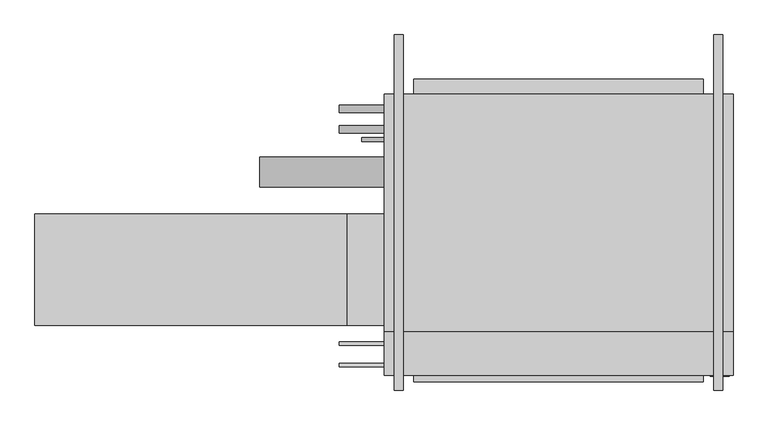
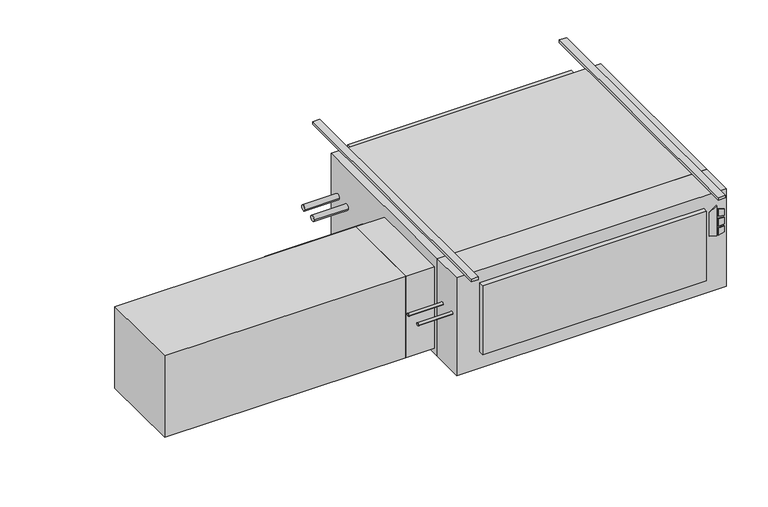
"""IFC4 building model written with IfcOpenShell, lengths in millimetres: proxy geometry."""

from ifc_helpers import new_model, si_unit, point, frame, frame_2d, origin, origin_with_axes, place, context, project, spatial, polyline, circle_curve, trimmed, segment, composite_curve, outline, extrude, source, transform, mapped, element, save


def mechanical_equipment_f79a586b(model_context):
    return source(origin(), model_context, "Body", "SweptSolid", [
        extrude(outline(polyline([(-193.2519297, 671.5868862), (-203.2, 703.7602728), (-61.0290756, 703.7602728), (-84.0510817, 671.5868862), (-193.2519297, 671.5868862)])), frame((0.0, -797.052, 0.0), z_axis=(0.0, 1.0, 0.0), x_axis=(0.0, 0.0, 1.0)), (0.0, 0.0, 1.0), 3.175),
        extrude(outline(polyline([(-114.2526443, 710.5186058), (-117.4550368, 736.6), (-88.2261958, 736.6), (-80.1617807, 710.5186058), (-114.2526443, 710.5186058)])), frame((0.0, -797.052, 0.0), z_axis=(0.0, 1.0, 0.0), x_axis=(0.0, 0.0, 1.0)), (0.0, 0.0, 1.0), 3.175),
        extrude(outline(polyline([(-166.1161712, 736.6), (-169.7816721, 710.5186058), (-203.2, 710.5186058), (-194.5657628, 736.6), (-166.1161712, 736.6)])), frame((0.0, -797.052, 0.0), z_axis=(0.0, 1.0, 0.0), x_axis=(0.0, 0.0, 1.0)), (0.0, 0.0, 1.0), 3.175),
        extrude(outline(polyline([(-126.8010097, 736.6), (-124.5191834, 710.5186058), (-160.4567319, 710.5186058), (-157.7154669, 736.6), (-126.8010097, 736.6)])), frame((0.0, -797.052, 0.0), z_axis=(0.0, 1.0, 0.0), x_axis=(0.0, 0.0, 1.0)), (0.0, 0.0, 1.0), 3.175),
        extrude(outline(polyline([(749.3, -793.877), (-444.5, -793.877), (-444.5, -644.525), (749.3, -644.525), (749.3, -793.877)])), frame((0.0, 0.0, -457.2), z_axis=(0.0, 0.0, 1.0), x_axis=(1.0, 0.0, 0.0)), (0.0, 0.0, 1.0), 457.2),
        extrude(outline(polyline([(647.7, -816.229), (-342.9, -816.229), (-342.9, -793.877), (647.7, -793.877), (647.7, -816.229)])), frame((0.0, 0.0, -381.0), z_axis=(0.0, 0.0, 1.0), x_axis=(1.0, 0.0, 0.0)), (0.0, 0.0, 1.0), 323.85),
        extrude(outline(polyline([(-1638.3, -622.3), (-1638.3, -241.3), (-571.5, -241.3), (-571.5, -622.3), (-1638.3, -622.3)])), frame((0.0, 0.0, -431.8), z_axis=(0.0, 0.0, 1.0), x_axis=(1.0, 0.0, 0.0)), (0.0, 0.0, 1.0), 381.0),
        extrude(outline(polyline([(-444.5, -241.3), (-444.5, -622.3), (-571.5, -622.3), (-571.5, -241.3), (-444.5, -241.3)])), frame((0.0, 0.0, -431.8), z_axis=(0.0, 0.0, 1.0), x_axis=(1.0, 0.0, 0.0)), (0.0, 0.0, 1.0), 381.0),
        extrude(outline(composite_curve([segment(trimmed(circle_curve(frame_2d((-758.825, -184.15)), 6.35), [point((-765.175, -184.15))], [point((-752.475, -184.15))], False, "CARTESIAN"), True, "CONTINUOUS"), segment(trimmed(circle_curve(frame_2d((-758.825, -184.15)), 6.35), [point((-752.475, -184.15))], [point((-765.175, -184.15))], False, "CARTESIAN"), True, "CONTINUOUS")], self_intersect=False)), frame((-596.9, 0.0, 0.0), z_axis=(1.0, 0.0, 0.0), x_axis=(0.0, 1.0, 0.0)), (0.0, 0.0, 1.0), 152.4),
        extrude(outline(composite_curve([segment(trimmed(circle_curve(frame_2d((-685.8, -184.15)), 6.35), [point((-692.15, -184.15))], [point((-679.45, -184.15))], False, "CARTESIAN"), True, "CONTINUOUS"), segment(trimmed(circle_curve(frame_2d((-685.8, -184.15)), 6.35), [point((-679.45, -184.15))], [point((-692.15, -184.15))], False, "CARTESIAN"), True, "CONTINUOUS")], self_intersect=False)), frame((-596.9, 0.0, 0.0), z_axis=(1.0, 0.0, 0.0), x_axis=(0.0, 1.0, 0.0)), (0.0, 0.0, 1.0), 152.4),
        extrude(outline(composite_curve([segment(trimmed(circle_curve(frame_2d((-98.4896516, -228.6360165)), 50.8), [point((-149.2896516, -228.6360165))], [point((-47.6896516, -228.6360165))], False, "CARTESIAN"), True, "CONTINUOUS"), segment(trimmed(circle_curve(frame_2d((-98.4896516, -228.6360165)), 50.8), [point((-47.6896516, -228.6360165))], [point((-149.2896516, -228.6360165))], False, "CARTESIAN"), True, "CONTINUOUS")], self_intersect=False)), frame((-869.95, 0.0, 0.0), z_axis=(1.0, 0.0, 0.0), x_axis=(0.0, 1.0, 0.0)), (0.0, 0.0, 1.0), 425.45),
        extrude(outline(composite_curve([segment(trimmed(circle_curve(frame_2d((47.625, -177.8)), 12.7), [point((34.925, -177.8))], [point((60.325, -177.8))], False, "CARTESIAN"), True, "CONTINUOUS"), segment(trimmed(circle_curve(frame_2d((47.625, -177.8)), 12.7), [point((60.325, -177.8))], [point((34.925, -177.8))], False, "CARTESIAN"), True, "CONTINUOUS")], self_intersect=False)), frame((-596.9, 0.0, 0.0), z_axis=(1.0, 0.0, 0.0), x_axis=(0.0, 1.0, 0.0)), (0.0, 0.0, 1.0), 152.4),
        extrude(outline(composite_curve([segment(trimmed(circle_curve(frame_2d((117.475, -171.45)), 12.7), [point((104.775, -171.45))], [point((130.175, -171.45))], False, "CARTESIAN"), True, "CONTINUOUS"), segment(trimmed(circle_curve(frame_2d((117.475, -171.45)), 12.7), [point((130.175, -171.45))], [point((104.775, -171.45))], False, "CARTESIAN"), True, "CONTINUOUS")], self_intersect=False)), frame((-596.9, 0.0, 0.0), z_axis=(1.0, 0.0, 0.0), x_axis=(0.0, 1.0, 0.0)), (0.0, 0.0, 1.0), 152.4),
        extrude(outline(composite_curve([segment(trimmed(circle_curve(frame_2d((12.7, -409.575)), 6.35), [point((6.35, -409.575))], [point((19.05, -409.575))], False, "CARTESIAN"), True, "CONTINUOUS"), segment(trimmed(circle_curve(frame_2d((12.7, -409.575)), 6.35), [point((19.05, -409.575))], [point((6.35, -409.575))], False, "CARTESIAN"), True, "CONTINUOUS")], self_intersect=False)), frame((-520.7, 0.0, 0.0), z_axis=(1.0, 0.0, 0.0), x_axis=(0.0, 1.0, 0.0)), (0.0, 0.0, 1.0), 76.2),
        extrude(outline(polyline([(749.3, 168.275), (749.3, -644.525), (-444.5, -644.525), (-444.5, 168.275), (749.3, 168.275)])), frame((0.0, 0.0, -457.2), z_axis=(0.0, 0.0, 1.0), x_axis=(1.0, 0.0, 0.0)), (0.0, 0.0, 1.0), 457.2),
        extrude(outline(polyline([(-342.9, 219.075), (647.7, 219.075), (647.7, 168.275), (-342.9, 168.275), (-342.9, 219.075)])), frame((0.0, 0.0, -381.0), z_axis=(0.0, 0.0, 1.0), x_axis=(1.0, 0.0, 0.0)), (0.0, 0.0, 1.0), 355.6),
        extrude(outline(polyline([(-377.825, 371.475), (-377.825, -844.677), (-409.575, -844.677), (-409.575, 371.475), (-377.825, 371.475)])), origin_with_axes(), (0.0, 0.0, 1.0), 12.7),
        extrude(outline(polyline([(714.375, 371.475), (714.375, -844.677), (682.625, -844.677), (682.625, 371.475), (714.375, 371.475)])), origin_with_axes(), (0.0, 0.0, 1.0), 12.7),
    ])


if __name__ == "__main__":
    model = new_model("IFC4")
    model_context = context("Model", 3, world=origin())
    ifc_project = project(units=[si_unit("LENGTHUNIT", "METRE", prefix="MILLI")], contexts=[model_context])
    site = spatial("IfcSite", under=ifc_project)
    building = spatial("IfcBuilding", under=site)
    placement = place(None, origin())
    mechanical_equipment_shape = mechanical_equipment_f79a586b(model_context)
    element("IfcBuildingElementProxy", 1, Name="High_Capacity_Horizontal_Cabinet_Fan_Coil_Unit_-_HTY_-_IEC_-_4-Pipe_LH Side_2022 : Size 16 - 115v/60Hz/1Ph - 4/1 Coil - 4\" AirIn", ObjectType="High_Capacity_Horizontal_Cabinet_Fan_Coil_Unit_-_HTY_-_IEC_-_4-Pipe_LH Side_2022 : Size 16 - 115v/60Hz/1Ph - 4/1 Coil - 4\" AirIn", at=placement, inside=building, context=model_context, shape_type="MappedRepresentation", body=[
        mapped(mechanical_equipment_shape, transform((0.0, 0.0, 0.0), x_axis=(1.0, 0.0, 0.0), y_axis=(0.0, 1.0, 0.0), z_axis=(0.0, 0.0, 1.0))),
    ])
    save(model, "model.ifc")
